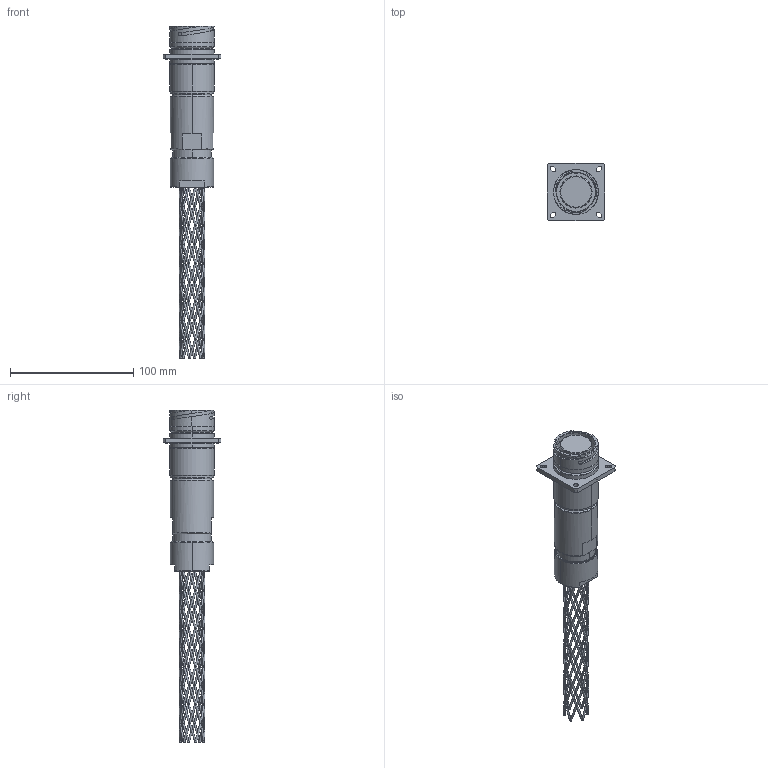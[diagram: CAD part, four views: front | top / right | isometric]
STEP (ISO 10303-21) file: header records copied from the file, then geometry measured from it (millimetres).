
FILE_DESCRIPTION (( 'STEP AP214' ), '1' );
FILE_NAME ('QLINK-RFBX-21XX-GXXX-RA.STEP', '2025-12-16T16:16:06', ( '' ), ( '' ), 'SwSTEP 2.0', 'SolidWorks 2024', '' );
FILE_SCHEMA (( 'AUTOMOTIVE_DESIGN' ));
Products named in the file (1): QLINK-RFBX-21XX-GXXX-RA
Bounding box: 46.86 x 46.86 x 268.99 mm (x, y, z)
Volume: 127647.4 mm3; surface area: 33732.5 mm2
Topology: 2 solids, 2 shells, 423 faces, 1162 edges, 654 vertices
Faces by surface type: bspline 233, cylinder 76, plane 69, torus 26, cone 19
Entity records: 117084 total; most frequent: CARTESIAN_POINT 108904, ORIENTED_EDGE 2324, EDGE_CURVE 1162, DIRECTION 1119, VERTEX_POINT 654, AXIS2_PLACEMENT_3D 478, EDGE_LOOP 452, ADVANCED_FACE 423
